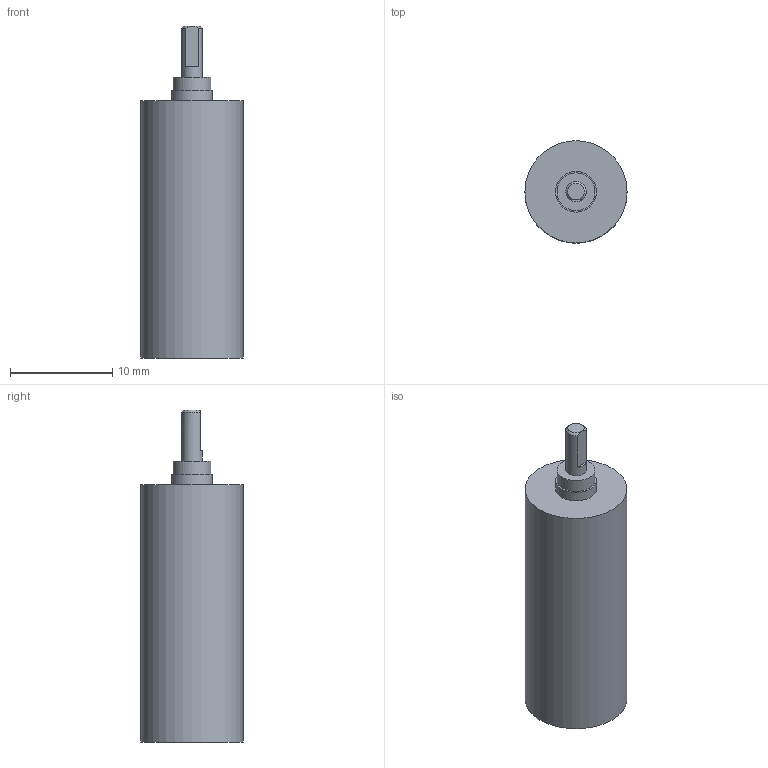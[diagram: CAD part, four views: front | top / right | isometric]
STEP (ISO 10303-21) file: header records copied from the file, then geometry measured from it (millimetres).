
FILE_DESCRIPTION(/* description */ (''),/* implementation_level */ '2;1');
FILE_NAME(/* name */ '10-1_6.stp',/* time_stamp */ '2016-08-24T08:23:00+02:00',/* author */ ('DR. FRITZ FAULHABER GmbH & Co. KG'),/* organization */ ('DR. FRITZ FAULHABER GmbH & Co. KG'),/* preprocessor_version */ 'ST-DEVELOPER v16',/* originating_system */ 'SIEMENS PLM Software NX 10.0',/* authorisation */ '');
FILE_SCHEMA (('AUTOMOTIVE_DESIGN { 1 0 10303 214 3 1 1 1 }'));
Length unit declared in the file: millimetre
Products named in the file (1): H00000412_A
Bounding box: 10 x 10 x 32.5 mm (x, y, z)
Volume: 1934 mm3; surface area: 1076.6 mm2
Topology: 1 solids, 1 shells, 20 faces, 36 edges, 24 vertices
Faces by surface type: plane 10, cylinder 8, cone 2
Full cylindrical faces by diameter (mm): 2 x1, 3.12 x1, 3.32 x1, 3.7 x1, 4 x1, 4.959 x1, 6 x1, 10 x1
Entity records: 452 total; most frequent: DIRECTION 81, CARTESIAN_POINT 79, ORIENTED_EDGE 46, AXIS2_PLACEMENT_3D 39, EDGE_LOOP 35, FACE_BOUND 30, EDGE_CURVE 23, ADVANCED_FACE 20
